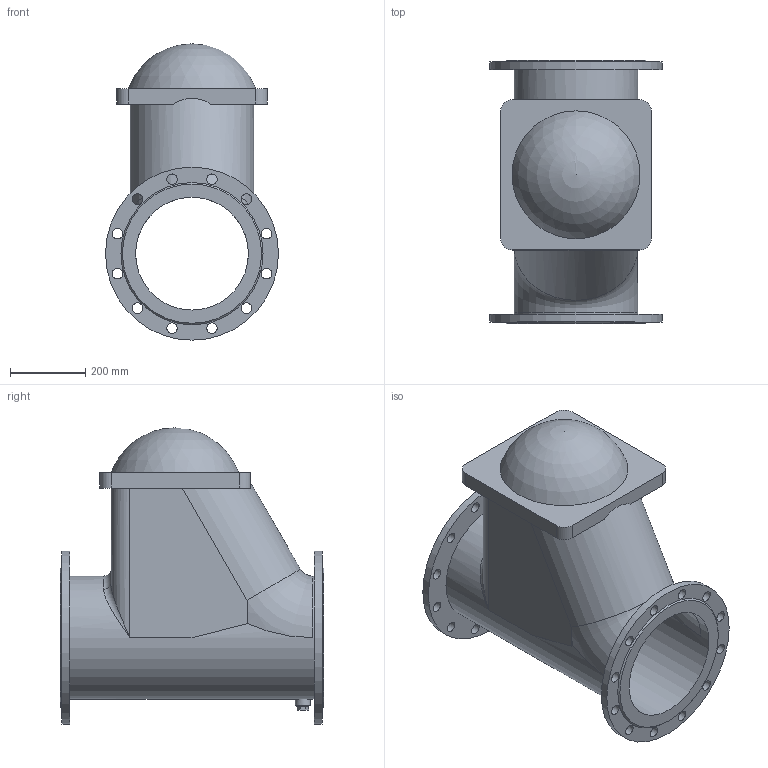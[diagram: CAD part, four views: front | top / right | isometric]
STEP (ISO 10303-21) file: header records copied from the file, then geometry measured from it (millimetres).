
FILE_DESCRIPTION(('STEP AP203'), '1');
FILE_NAME('Êëàïàí îáðàòíûé øàðîâîé ôëàíöåâûé 012F.Z DN300 PN16', '', ('UNSPECIFIED'), ('UNSPECIFIED'), 'ASCON STEP Converter 1.6', 'ASCON Math Kernel', '');
FILE_SCHEMA(('CONFIG_CONTROL_DESIGN'));
Length unit declared in the file: millimetre
Bounding box: 460 x 700 x 788 mm (x, y, z)
Volume: 50645797.9 mm3; surface area: 2573023.8 mm2
Topology: 1 solids, 1 shells, 78 faces, 203 edges, 132 vertices
Faces by surface type: cylinder 38, plane 32, torus 3, bspline 2, cone 2, sphere 1
Full cylindrical faces by diameter (mm): 28 x24, 32 x1, 40 x1, 300 x1, 328 x1, 460 x2
Entity records: 4131 total; most frequent: CARTESIAN_POINT 1589, DIRECTION 381, ORIENTED_EDGE 330, EDGE_LOOP 170, EDGE_CURVE 165, AXIS2_PLACEMENT_3D 162, VERTEX_POINT 131, FACE_BOUND 105
